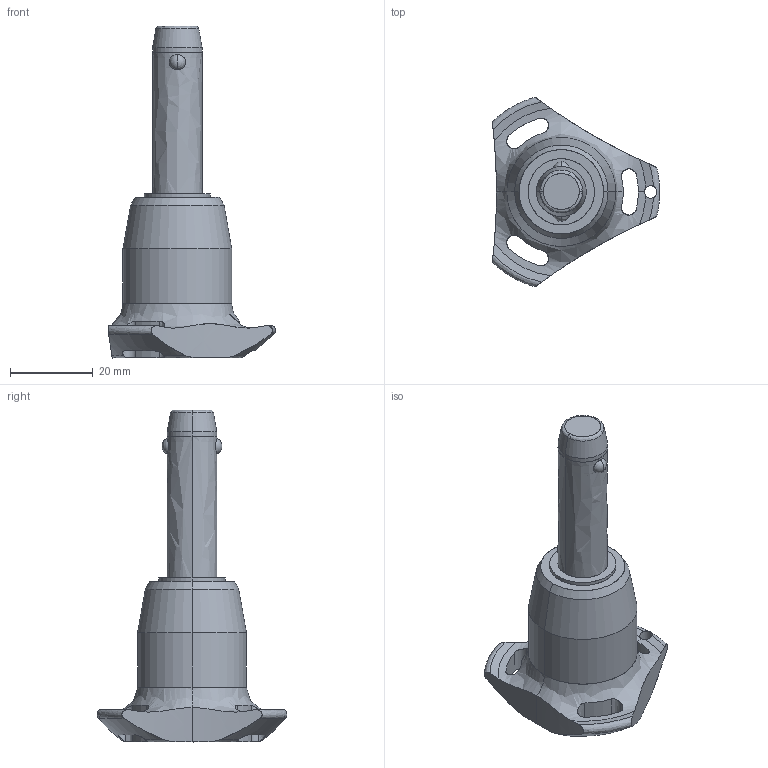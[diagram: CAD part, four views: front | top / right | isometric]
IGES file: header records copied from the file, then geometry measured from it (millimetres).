
Start section: SolidWorks IGES file using analytic representation for surfaces
Global section: file name: C:\Users\ianosborn\Desktop\33060_v2\33060.BK_v2_20240910_IGES\33060.W0866.igs; native system: SolidWorks 2019; preprocessor: SolidWorks 2019; author: IanOsborn; date: 240910.201447; units: millimetre
Bounding box: 40.5 x 45.88 x 80.3 mm (x, y, z)
Surface area: 7468.8 mm2 (no closed solid volume)
Topology: 0 solids, 0 shells, 68 faces, 1435 edges, 1431 vertices
Faces by surface type: revolution 52, bspline 16
